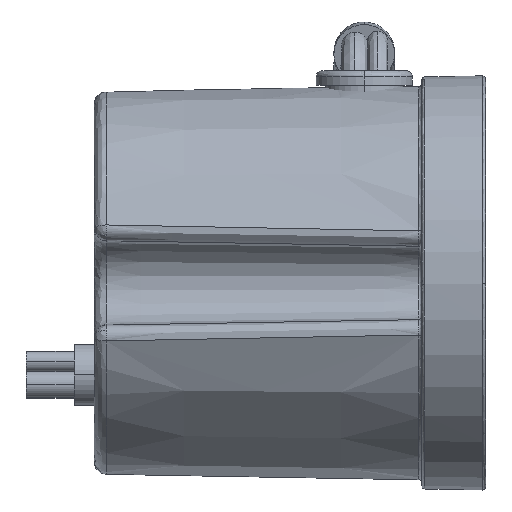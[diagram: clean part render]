
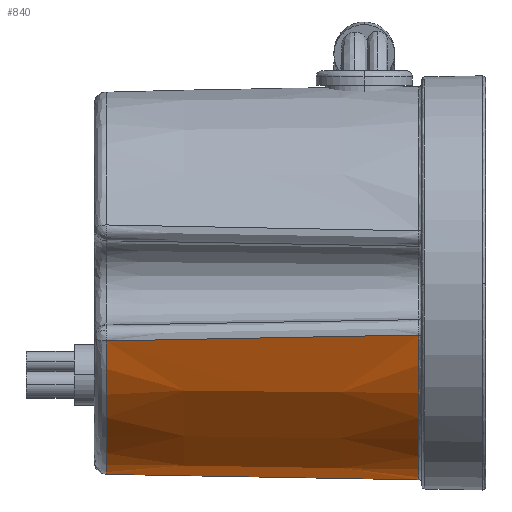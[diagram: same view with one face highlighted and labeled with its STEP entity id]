
A CAD part, left-side view. The second image highlights one B-rep face of the part: STEP entity #840.
In plain terms, the highlighted conical face has half-angle 1 degrees and reference radius 32.448 mm.
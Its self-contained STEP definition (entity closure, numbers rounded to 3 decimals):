
#253 = ORIENTED_EDGE ( 'NONE', *, *, #9007, .T. ) ;
#529 = AXIS2_PLACEMENT_3D ( 'NONE', #3836, #5686, #8270 ) ;
#601 = CARTESIAN_POINT ( 'NONE',  ( -30.475, 37.735, -9.238 ) ) ;
#786 = CARTESIAN_POINT ( 'NONE',  ( -31.293, 2.991, -8.581 ) ) ;
#840 = ADVANCED_FACE ( 'NONE', ( #3291 ), #1597, .T. ) ;
#1017 = ORIENTED_EDGE ( 'NONE', *, *, #11120, .T. ) ;
#1057 = AXIS2_PLACEMENT_3D ( 'NONE', #4409, #10331, #4190 ) ;
#1233 = CIRCLE ( 'NONE', #529, 32.448 ) ;
#1351 = DIRECTION ( 'NONE',  ( -1., 0., 0. ) ) ;
#1597 = CONICAL_SURFACE ( 'NONE', #1057, 32.448, 0.017 ) ;
#2206 = CARTESIAN_POINT ( 'NONE',  ( 0., 54.535, 0. ) ) ;
#2593 = EDGE_LOOP ( 'NONE', ( #4468, #1017, #253, #9346 ) ) ;
#3145 = EDGE_CURVE ( 'NONE', #8991, #10567, #5139, .T. ) ;
#3291 = FACE_OUTER_BOUND ( 'NONE', #2593, .T. ) ;
#3731 = B_SPLINE_CURVE_WITH_KNOTS ( 'NONE', 3,
 ( #10033, #7581, #601, #5065 ),
 .UNSPECIFIED., .F., .F.,
 ( 4, 4 ),
 ( 0., 1. ),
 .UNSPECIFIED. ) ;
#3772 = LINE ( 'NONE', #9791, #11095 ) ;
#3836 = CARTESIAN_POINT ( 'NONE',  ( 0., 2.991, 0. ) ) ;
#4190 = DIRECTION ( 'NONE',  ( 0., 0., -1. ) ) ;
#4409 = CARTESIAN_POINT ( 'NONE',  ( 0., 2.991, 0. ) ) ;
#4468 = ORIENTED_EDGE ( 'NONE', *, *, #3145, .T. ) ;
#4635 = VERTEX_POINT ( 'NONE', #11037 ) ;
#5065 = CARTESIAN_POINT ( 'NONE',  ( -30.066, 54.535, -9.557 ) ) ;
#5139 = CIRCLE ( 'NONE', #6216, 31.548 ) ;
#5644 = DIRECTION ( 'NONE',  ( 0., -1., 0. ) ) ;
#5686 = DIRECTION ( 'NONE',  ( 0., 1., 0. ) ) ;
#5859 = CARTESIAN_POINT ( 'NONE',  ( 0., 54.535, -31.548 ) ) ;
#6216 = AXIS2_PLACEMENT_3D ( 'NONE', #2206, #5644, #1351 ) ;
#6508 = DIRECTION ( 'NONE',  ( 0., -1., -0.017 ) ) ;
#6580 = EDGE_CURVE ( 'NONE', #8646, #8991, #3731, .T. ) ;
#7581 = CARTESIAN_POINT ( 'NONE',  ( -30.884, 20.554, -8.913 ) ) ;
#8270 = DIRECTION ( 'NONE',  ( -1., 0., 0. ) ) ;
#8646 = VERTEX_POINT ( 'NONE', #786 ) ;
#8991 = VERTEX_POINT ( 'NONE', #10769 ) ;
#9007 = EDGE_CURVE ( 'NONE', #4635, #8646, #1233, .T. ) ;
#9346 = ORIENTED_EDGE ( 'NONE', *, *, #6580, .T. ) ;
#9791 = CARTESIAN_POINT ( 'NONE',  ( 0., 2.991, -32.448 ) ) ;
#10033 = CARTESIAN_POINT ( 'NONE',  ( -31.293, 2.991, -8.581 ) ) ;
#10331 = DIRECTION ( 'NONE',  ( 0., -1., 0. ) ) ;
#10567 = VERTEX_POINT ( 'NONE', #5859 ) ;
#10769 = CARTESIAN_POINT ( 'NONE',  ( -30.066, 54.535, -9.557 ) ) ;
#11037 = CARTESIAN_POINT ( 'NONE',  ( 0., 2.991, -32.448 ) ) ;
#11095 = VECTOR ( 'NONE', #6508, 1000. ) ;
#11120 = EDGE_CURVE ( 'NONE', #10567, #4635, #3772, .T. ) ;
